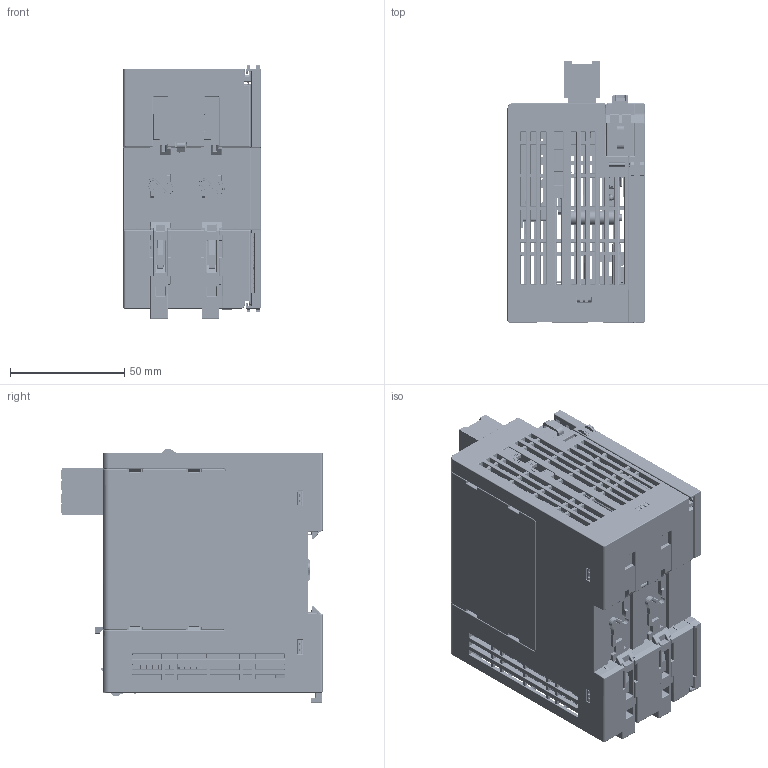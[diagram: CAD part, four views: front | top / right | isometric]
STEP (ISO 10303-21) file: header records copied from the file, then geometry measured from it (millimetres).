
FILE_DESCRIPTION((''),'2;1');
FILE_NAME('TS620_ASM','2024-08-16T15:10:55',('Administrator'),(''),'CREO PARAMETRIC BY PTC INC, 2019080','CREO PARAMETRIC BY PTC INC, 2019080','');
FILE_SCHEMA(('CONFIG_CONTROL_DESIGN'));
Products named in the file (76): 80740462_1; 80880830_1; 40810245_ASM_1_ASM; 80740463_2; 80740378_1; 80880808_1; 2X9-0131_1; 80740372_1; PCB-TS88-ZKB_1; E-DSW6-100-100-A_2; E-SPSW3-100R_2; E-HEAD0106-RC_2; E-DIN0217-0_8MM-TM_1; E-USB0212-20-RM_2_1; E-USB0212-20-RM_2_2; E-USB0212-20-RM_2_3; E-USB0212-20-RM_2_4; E-USB0212-20-RM_2_5; E-USB0212-20-RM_2_6; E-USB0212-20-RM_2_7; E-USB0212-20-RM_2_8; E-USB0212-20-RM_2_9; E-USB0212-20-RM_2_10; E-USB0212-20-RM_2_11; E-USB0212-20-RM_2_12; E-USB0212-20-RM_2_13; E-USB0212-20-RM_2_14; E-USB0212-20-RM_2_15; E-USB0212-20-RM_2_16; E-USB0212-20-RM_2_17; E-USB0212-20-RM_2_18; E-USB0212-20-RM_2_19; E-USB0212-20-RM_2_20; E-USB0212-20-RM_2_21; E-USB0212-20-RM_2_22; E-USB0212-20-RM_2_23; E-USB0212-20-RM_2_24; E-USB0212-20-RM_2_25; E-USB0212-20-RM_2_ASM; E-HEAD0104-RB_2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
Assembly tree (95 placements, depth 6):
  TS620_ASM
    TS620_ASM_2_ASM
      40810245_ASM_1_ASM
        80740462_1
        80880830_1  x2
      80740463_2
      80740378_1
      80880808_1
      2X9-0131_1
      80740372_1
      PCB-TS88_ASM_1_ASM
        PCB-TS88-ZKB_ASM_1_ASM
          PCB-TS88-ZKB_1
          E-DSW6-100-100-A_2
          E-SPSW3-100R_2  x2
          E-HEAD0106-RC_2
          E-DIN0217-0_8MM-TM_1
          E-USB0212-20-RM_2_ASM
            E-USB0212-20-RM_2_1
            E-USB0212-20-RM_2_2
            E-USB0212-20-RM_2_3
            E-USB0212-20-RM_2_4
            E-USB0212-20-RM_2_5
            E-USB0212-20-RM_2_6
            E-USB0212-20-RM_2_7
            E-USB0212-20-RM_2_8
            E-USB0212-20-RM_2_9
            E-USB0212-20-RM_2_10
            E-USB0212-20-RM_2_11
            E-USB0212-20-RM_2_12
            E-USB0212-20-RM_2_13
            E-USB0212-20-RM_2_14
            E-USB0212-20-RM_2_15
            E-USB0212-20-RM_2_16
            E-USB0212-20-RM_2_17
            E-USB0212-20-RM_2_18
            E-USB0212-20-RM_2_19
            E-USB0212-20-RM_2_20
            E-USB0212-20-RM_2_21
            E-USB0212-20-RM_2_22
            E-USB0212-20-RM_2_23
            E-USB0212-20-RM_2_24
            E-USB0212-20-RM_2_25
          E-HEAD0104-RB_2
          E-DIN0204-5_08MM-4_2MM-RM_2
          E-T14-MJC_1  x3
          2X4PMT_1
          77559739_1
          2X25-DZG_1
        PCB-TS88-KZB_ASM_1_ASM
          PCB-TS88-KZB_1
          E-SD0702A_2  x16
          E-JK2-3_3X4-A_2
          E-BAT2-R20MM-B_1
          CXLJQ-Y-0722_1
          2X25-DZM_1_ASM
            2X25-DZM_1_1
            2X25-DZM_1_2
            2X25-DZM_1_3
            2X25-DZM_1_4
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Bounding box: 60 x 114.26 x 111 mm (x, y, z)
Volume: 177196.6 mm3; surface area: 213588.1 mm2
Topology: 85 solids, 122 shells, 16329 faces, 45481 edges, 29364 vertices
Faces by surface type: plane 11699, cylinder 3553, bspline 394, extrusion 211, torus 200, sphere 158, cone 114
Entity records: 474901 total; most frequent: CARTESIAN_POINT 110946, ORIENTED_EDGE 78984, DIRECTION 69802, EDGE_CURVE 39528, VECTOR 31326, LINE 31115, VERTEX_POINT 25633, AXIS2_PLACEMENT_3D 19238
